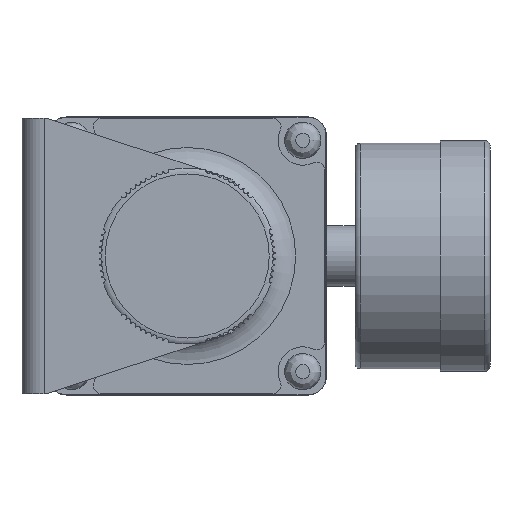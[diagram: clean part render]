
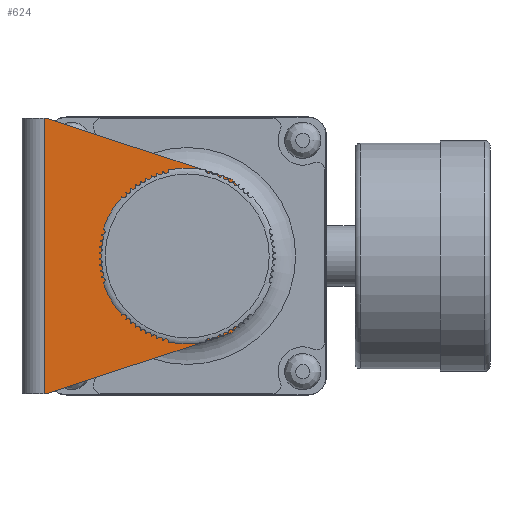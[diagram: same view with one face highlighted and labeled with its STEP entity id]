
A CAD part, left-side view. The second image highlights one B-rep face of the part: STEP entity #624.
In plain terms, the highlighted planar face has unit normal (-1, 0, 0).
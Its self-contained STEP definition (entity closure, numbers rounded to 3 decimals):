
#624 = ADVANCED_FACE( '', ( #1488, #1489, #1490 ), #1491, .F. );
#1488 = FACE_BOUND( '', #2708, .T. );
#1489 = FACE_BOUND( '', #2709, .T. );
#1490 = FACE_OUTER_BOUND( '', #2710, .T. );
#1491 = PLANE( '', #2711 );
#2708 = EDGE_LOOP( '', ( #4405 ) );
#2709 = EDGE_LOOP( '', ( #4406 ) );
#2710 = EDGE_LOOP( '', ( #4407, #4408, #4409, #4410, #4411, #4412, #4413, #4414, #4415, #4416, #4417, #4418, #4419, #4420, #4421, #4422 ) );
#2711 = AXIS2_PLACEMENT_3D( '', #4423, #4424, #4425 );
#4405 = ORIENTED_EDGE( '', *, *, #7141, .T. );
#4406 = ORIENTED_EDGE( '', *, *, #6717, .T. );
#4407 = ORIENTED_EDGE( '', *, *, #7142, .F. );
#4408 = ORIENTED_EDGE( '', *, *, #7143, .F. );
#4409 = ORIENTED_EDGE( '', *, *, #7144, .F. );
#4410 = ORIENTED_EDGE( '', *, *, #7145, .T. );
#4411 = ORIENTED_EDGE( '', *, *, #7146, .F. );
#4412 = ORIENTED_EDGE( '', *, *, #7147, .F. );
#4413 = ORIENTED_EDGE( '', *, *, #7097, .F. );
#4414 = ORIENTED_EDGE( '', *, *, #6980, .F. );
#4415 = ORIENTED_EDGE( '', *, *, #6793, .F. );
#4416 = ORIENTED_EDGE( '', *, *, #7148, .T. );
#4417 = ORIENTED_EDGE( '', *, *, #7149, .F. );
#4418 = ORIENTED_EDGE( '', *, *, #7150, .F. );
#4419 = ORIENTED_EDGE( '', *, *, #7151, .T. );
#4420 = ORIENTED_EDGE( '', *, *, #7082, .F. );
#4421 = ORIENTED_EDGE( '', *, *, #7152, .F. );
#4422 = ORIENTED_EDGE( '', *, *, #7153, .T. );
#4423 = CARTESIAN_POINT( '', ( 0., 39., 25. ) );
#4424 = DIRECTION( '', ( 1., 0., 0. ) );
#4425 = DIRECTION( '', ( 0., 1., 0. ) );
#6717 = EDGE_CURVE( '', #7961, #7961, #7962, .T. );
#6793 = EDGE_CURVE( '', #8094, #8096, #8097, .T. );
#6980 = EDGE_CURVE( '', #8096, #8414, #8415, .T. );
#7082 = EDGE_CURVE( '', #8589, #8591, #8592, .T. );
#7097 = EDGE_CURVE( '', #8414, #8615, #8616, .T. );
#7141 = EDGE_CURVE( '', #8685, #8685, #8686, .T. );
#7142 = EDGE_CURVE( '', #8687, #8688, #8689, .T. );
#7143 = EDGE_CURVE( '', #8690, #8687, #8691, .T. );
#7144 = EDGE_CURVE( '', #8692, #8690, #8693, .T. );
#7145 = EDGE_CURVE( '', #8692, #8694, #8695, .T. );
#7146 = EDGE_CURVE( '', #8696, #8694, #8697, .T. );
#7147 = EDGE_CURVE( '', #8615, #8696, #8698, .T. );
#7148 = EDGE_CURVE( '', #8094, #8699, #8700, .T. );
#7149 = EDGE_CURVE( '', #8701, #8699, #8702, .T. );
#7150 = EDGE_CURVE( '', #8703, #8701, #8704, .T. );
#7151 = EDGE_CURVE( '', #8703, #8591, #8705, .T. );
#7152 = EDGE_CURVE( '', #8706, #8589, #8707, .T. );
#7153 = EDGE_CURVE( '', #8706, #8688, #8708, .T. );
#7961 = VERTEX_POINT( '', #9786 );
#7962 = CIRCLE( '', #9787, 1.2 );
#8094 = VERTEX_POINT( '', #9978 );
#8096 = VERTEX_POINT( '', #9981 );
#8097 = CIRCLE( '', #9982, 2. );
#8414 = VERTEX_POINT( '', #10473 );
#8415 = LINE( '', #10474, #10475 );
#8589 = VERTEX_POINT( '', #10734 );
#8591 = VERTEX_POINT( '', #10737 );
#8592 = LINE( '', #10738, #10739 );
#8615 = VERTEX_POINT( '', #10770 );
#8616 = CIRCLE( '', #10771, 1. );
#8685 = VERTEX_POINT( '', #10884 );
#8686 = CIRCLE( '', #10885, 1.2 );
#8687 = VERTEX_POINT( '', #10886 );
#8688 = VERTEX_POINT( '', #10887 );
#8689 = CIRCLE( '', #10888, 2. );
#8690 = VERTEX_POINT( '', #10889 );
#8691 = LINE( '', #10890, #10891 );
#8692 = VERTEX_POINT( '', #10892 );
#8693 = CIRCLE( '', #10893, 1. );
#8694 = VERTEX_POINT( '', #10894 );
#8695 = LINE( '', #10895, #10896 );
#8696 = VERTEX_POINT( '', #10897 );
#8697 = LINE( '', #10898, #10899 );
#8698 = LINE( '', #10900, #10901 );
#8699 = VERTEX_POINT( '', #10902 );
#8700 = LINE( '', #10903, #10904 );
#8701 = VERTEX_POINT( '', #10905 );
#8702 = CIRCLE( '', #10906, 2. );
#8703 = VERTEX_POINT( '', #10907 );
#8704 = LINE( '', #10908, #10909 );
#8705 = CIRCLE( '', #10910, 9. );
#8706 = VERTEX_POINT( '', #10911 );
#8707 = CIRCLE( '', #10912, 2. );
#8708 = LINE( '', #10913, #10914 );
#9786 = CARTESIAN_POINT( '', ( 0., 30., 9.55 ) );
#9787 = AXIS2_PLACEMENT_3D( '', #12617, #12618, #12619 );
#9978 = CARTESIAN_POINT( '', ( 0., 39., 12.204 ) );
#9981 = CARTESIAN_POINT( '', ( 0., 37.625, 14.104 ) );
#9982 = AXIS2_PLACEMENT_3D( '', #12718, #12719, #12720 );
#10473 = CARTESIAN_POINT( '', ( 0., 4.652, 24.95 ) );
#10474 = CARTESIAN_POINT( '', ( 0., 37.625, 14.104 ) );
#10475 = VECTOR( '', #12963, 1000. );
#10734 = CARTESIAN_POINT( '', ( 0., 37., -8.1 ) );
#10737 = CARTESIAN_POINT( '', ( 0., 26.077, -8.1 ) );
#10738 = CARTESIAN_POINT( '', ( 0., 37., -8.1 ) );
#10739 = VECTOR( '', #13108, 1000. );
#10770 = CARTESIAN_POINT( '', ( 0., 4.34, 25. ) );
#10771 = AXIS2_PLACEMENT_3D( '', #13126, #13127, #13128 );
#10884 = CARTESIAN_POINT( '', ( 0., 30., -11.95 ) );
#10885 = AXIS2_PLACEMENT_3D( '', #13175, #13176, #13177 );
#10886 = CARTESIAN_POINT( '', ( 0., 37.625, -14.104 ) );
#10887 = CARTESIAN_POINT( '', ( 0., 39., -12.204 ) );
#10888 = AXIS2_PLACEMENT_3D( '', #13178, #13179, #13180 );
#10889 = CARTESIAN_POINT( '', ( 0., 4.652, -24.95 ) );
#10890 = CARTESIAN_POINT( '', ( 0., 4.652, -24.95 ) );
#10891 = VECTOR( '', #13181, 1000. );
#10892 = CARTESIAN_POINT( '', ( 0., 4.34, -25. ) );
#10893 = AXIS2_PLACEMENT_3D( '', #13182, #13183, #13184 );
#10894 = CARTESIAN_POINT( '', ( 0., 4., -25. ) );
#10895 = CARTESIAN_POINT( '', ( 0., 39., -25. ) );
#10896 = VECTOR( '', #13185, 1000. );
#10897 = CARTESIAN_POINT( '', ( 0., 4., 25. ) );
#10898 = CARTESIAN_POINT( '', ( 0., 4., 25. ) );
#10899 = VECTOR( '', #13186, 1000. );
#10900 = CARTESIAN_POINT( '', ( 0., 39., 25. ) );
#10901 = VECTOR( '', #13187, 1000. );
#10902 = CARTESIAN_POINT( '', ( 0., 39., 10.1 ) );
#10903 = CARTESIAN_POINT( '', ( 0., 39., 25. ) );
#10904 = VECTOR( '', #13188, 1000. );
#10905 = CARTESIAN_POINT( '', ( 0., 37., 8.1 ) );
#10906 = AXIS2_PLACEMENT_3D( '', #13189, #13190, #13191 );
#10907 = CARTESIAN_POINT( '', ( 0., 26.077, 8.1 ) );
#10908 = CARTESIAN_POINT( '', ( 0., 26.077, 8.1 ) );
#10909 = VECTOR( '', #13192, 1000. );
#10910 = AXIS2_PLACEMENT_3D( '', #13193, #13194, #13195 );
#10911 = CARTESIAN_POINT( '', ( 0., 39., -10.1 ) );
#10912 = AXIS2_PLACEMENT_3D( '', #13196, #13197, #13198 );
#10913 = CARTESIAN_POINT( '', ( 0., 39., 25. ) );
#10914 = VECTOR( '', #13199, 1000. );
#12617 = CARTESIAN_POINT( '', ( 0., 30., 10.75 ) );
#12618 = DIRECTION( '', ( 1., 0., 0. ) );
#12619 = DIRECTION( '', ( 0., 0., -1. ) );
#12718 = CARTESIAN_POINT( '', ( 0., 37., 12.204 ) );
#12719 = DIRECTION( '', ( 1., 0., 0. ) );
#12720 = DIRECTION( '', ( 0., 0., -1. ) );
#12963 = DIRECTION( '', ( 0., -0.95, 0.312 ) );
#13108 = DIRECTION( '', ( 0., -1., 0. ) );
#13126 = CARTESIAN_POINT( '', ( 0., 4.34, 24. ) );
#13127 = DIRECTION( '', ( 1., 0., 0. ) );
#13128 = DIRECTION( '', ( 0., 0., -1. ) );
#13175 = CARTESIAN_POINT( '', ( 0., 30., -10.75 ) );
#13176 = DIRECTION( '', ( 1., 0., 0. ) );
#13177 = DIRECTION( '', ( 0., 0., -1. ) );
#13178 = CARTESIAN_POINT( '', ( 0., 37., -12.204 ) );
#13179 = DIRECTION( '', ( 1., 0., 0. ) );
#13180 = DIRECTION( '', ( 0., 0., -1. ) );
#13181 = DIRECTION( '', ( 0., 0.95, 0.312 ) );
#13182 = CARTESIAN_POINT( '', ( 0., 4.34, -24. ) );
#13183 = DIRECTION( '', ( 1., 0., 0. ) );
#13184 = DIRECTION( '', ( 0., 0., -1. ) );
#13185 = DIRECTION( '', ( 0., -1., 0. ) );
#13186 = DIRECTION( '', ( 0., 0., -1. ) );
#13187 = DIRECTION( '', ( 0., -1., 0. ) );
#13188 = DIRECTION( '', ( 0., 0., -1. ) );
#13189 = CARTESIAN_POINT( '', ( 0., 37., 10.1 ) );
#13190 = DIRECTION( '', ( 1., 0., 0. ) );
#13191 = DIRECTION( '', ( 0., 0., -1. ) );
#13192 = DIRECTION( '', ( 0., 1., 0. ) );
#13193 = CARTESIAN_POINT( '', ( 0., 30., 0. ) );
#13194 = DIRECTION( '', ( 1., 0., 0. ) );
#13195 = DIRECTION( '', ( 0., 0., -1. ) );
#13196 = CARTESIAN_POINT( '', ( 0., 37., -10.1 ) );
#13197 = DIRECTION( '', ( 1., 0., 0. ) );
#13198 = DIRECTION( '', ( 0., 0., -1. ) );
#13199 = DIRECTION( '', ( 0., 0., -1. ) );
